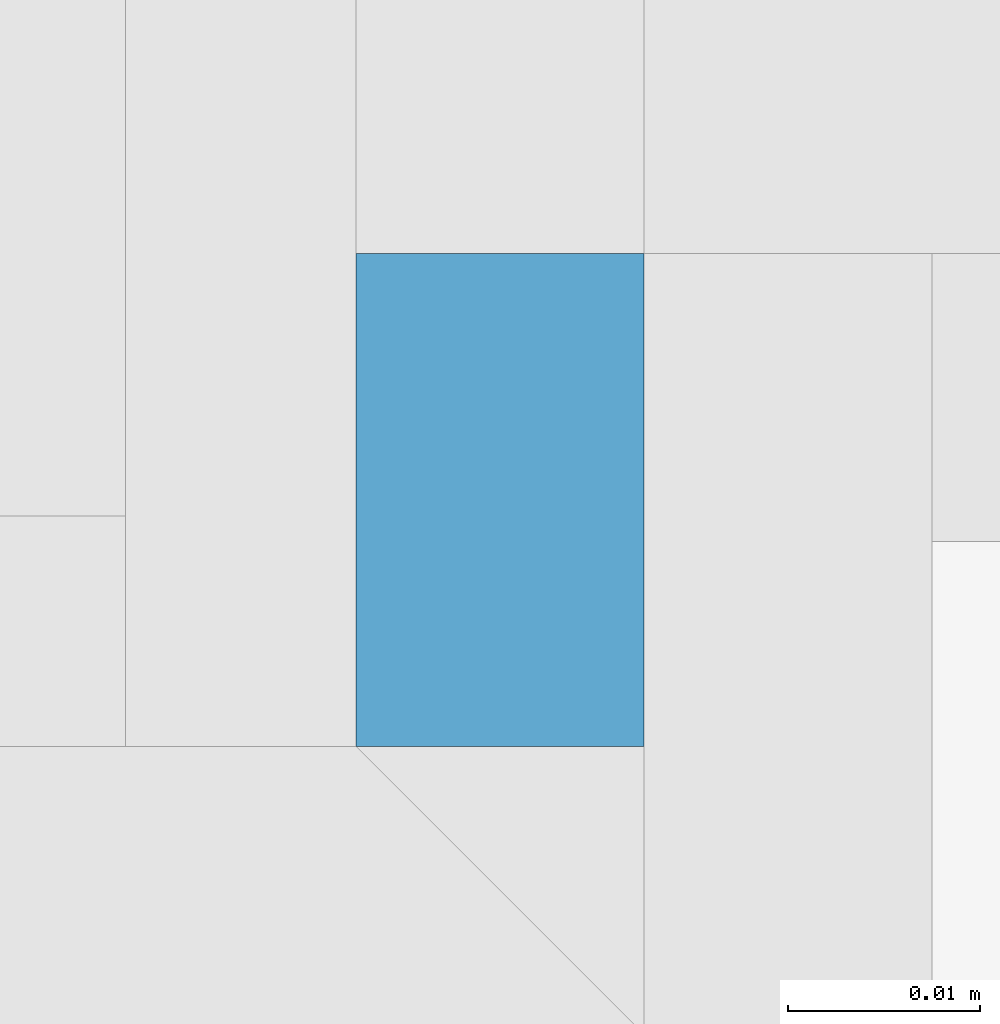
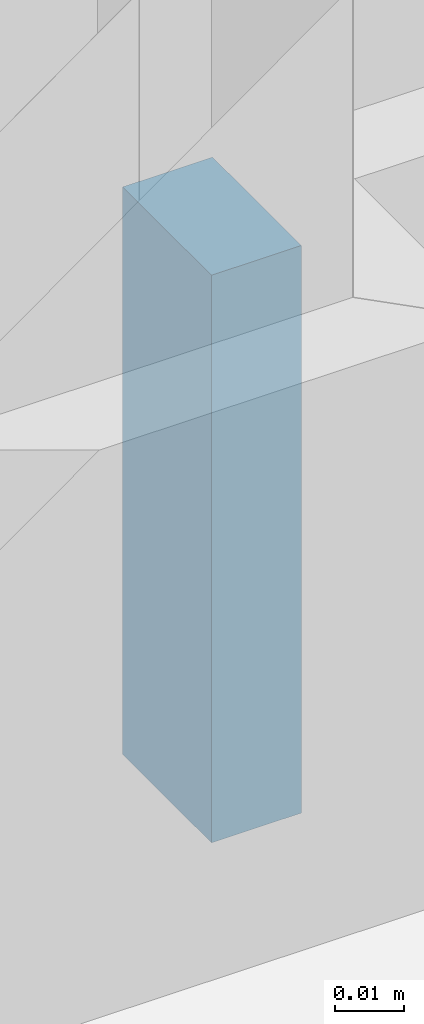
# One storey, part 10 of 65: 1 wall.
"""IFC2X3 building model written with IfcOpenShell, lengths in metres."""

from ifc_helpers import new_model, entity, si_unit, converted_unit, derived_unit, money_unit, direction, frame, frame_2d, origin_with_axes, place, context, subcontext, project, spatial, rectangle, extrude, material, layer, layer_set, layer_usage, type_object, element, save


model = new_model("IFC2X3")

# Units and contexts
model_context = context("Model", 3, precision=1e-05, world=origin_with_axes(), true_north=direction((0.0, 1.0)))
body_context = subcontext(model_context, "Body", "Model", "MODEL_VIEW", scale=1.0)
ifc_project = project(units=[si_unit("LENGTHUNIT", "METRE"), si_unit("AREAUNIT", "SQUARE_METRE"), si_unit("VOLUMEUNIT", "CUBIC_METRE"), si_unit("ABSORBEDDOSEUNIT", "GRAY"), si_unit("AMOUNTOFSUBSTANCEUNIT", "MOLE"), si_unit("DOSEEQUIVALENTUNIT", "SIEVERT"), si_unit("ELECTRICCAPACITANCEUNIT", "FARAD"), si_unit("ELECTRICCHARGEUNIT", "COULOMB"), si_unit("ELECTRICCONDUCTANCEUNIT", "SIEMENS"), si_unit("ELECTRICCURRENTUNIT", "AMPERE"), si_unit("ELECTRICRESISTANCEUNIT", "OHM"), si_unit("ELECTRICVOLTAGEUNIT", "VOLT"), si_unit("ENERGYUNIT", "JOULE"), si_unit("FORCEUNIT", "NEWTON"), si_unit("FREQUENCYUNIT", "HERTZ"), si_unit("ILLUMINANCEUNIT", "LUX"), si_unit("INDUCTANCEUNIT", "HENRY"), si_unit("LUMINOUSFLUXUNIT", "LUMEN"), si_unit("LUMINOUSINTENSITYUNIT", "CANDELA"), si_unit("MAGNETICFLUXDENSITYUNIT", "TESLA"), si_unit("MAGNETICFLUXUNIT", "WEBER"), si_unit("MASSUNIT", "GRAM"), converted_unit("PLANEANGLEUNIT", "degree", entity("IfcReal", 0.0174532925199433), si_unit("PLANEANGLEUNIT", "RADIAN"), dimensions=[0, 0, 0, 0, 0, 0, 0]), si_unit("POWERUNIT", "WATT"), si_unit("PRESSUREUNIT", "PASCAL"), si_unit("RADIOACTIVITYUNIT", "BECQUEREL"), si_unit("SOLIDANGLEUNIT", "STERADIAN"), si_unit("THERMODYNAMICTEMPERATUREUNIT", "KELVIN"), si_unit("TIMEUNIT", "SECOND"), derived_unit("ACCELERATIONUNIT", [(si_unit("LENGTHUNIT", "METRE"), 1), (si_unit("TIMEUNIT", "SECOND"), -2)]), derived_unit("ANGULARVELOCITYUNIT", [(converted_unit("PLANEANGLEUNIT", "degree", entity("IfcReal", 0.0174532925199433), si_unit("PLANEANGLEUNIT", "RADIAN"), dimensions=[0, 0, 0, 0, 0, 0, 0]), 1), (si_unit("TIMEUNIT", "SECOND"), -1)]), derived_unit("CURVATUREUNIT", [(converted_unit("PLANEANGLEUNIT", "degree", entity("IfcReal", 0.0174532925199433), si_unit("PLANEANGLEUNIT", "RADIAN"), dimensions=[0, 0, 0, 0, 0, 0, 0]), 1), (si_unit("LENGTHUNIT", "METRE"), -1)]), derived_unit("DYNAMICVISCOSITYUNIT", [(si_unit("PRESSUREUNIT", "PASCAL"), 1), (si_unit("TIMEUNIT", "SECOND"), 1)]), derived_unit("HEATFLUXDENSITYUNIT", [(si_unit("POWERUNIT", "WATT"), 1), (si_unit("LENGTHUNIT", "METRE"), -2)]), derived_unit("HEATINGVALUEUNIT", [(si_unit("ENERGYUNIT", "JOULE"), 1), (si_unit("MASSUNIT", "GRAM"), -1)]), derived_unit("INTEGERCOUNTRATEUNIT", [(si_unit("TIMEUNIT", "SECOND"), -1)]), derived_unit("IONCONCENTRATIONUNIT", [(si_unit("MASSUNIT", "GRAM"), 1), (si_unit("VOLUMEUNIT", "CUBIC_METRE"), -1)]), derived_unit("ISOTHERMALMOISTURECAPACITYUNIT", [(si_unit("VOLUMEUNIT", "CUBIC_METRE"), 1), (si_unit("MASSUNIT", "GRAM"), -1)]), derived_unit("KINEMATICVISCOSITYUNIT", [(si_unit("AREAUNIT", "SQUARE_METRE"), 1), (si_unit("TIMEUNIT", "SECOND"), -1)]), derived_unit("LINEARFORCEUNIT", [(si_unit("FORCEUNIT", "NEWTON"), 1), (si_unit("LENGTHUNIT", "METRE"), -1)]), derived_unit("LINEARMOMENTUNIT", [(si_unit("FORCEUNIT", "NEWTON"), 1), (si_unit("LENGTHUNIT", "METRE"), -1)]), derived_unit("LINEARSTIFFNESSUNIT", [(si_unit("FORCEUNIT", "NEWTON"), 1), (si_unit("LENGTHUNIT", "METRE"), -1)]), derived_unit("LINEARVELOCITYUNIT", [(si_unit("LENGTHUNIT", "METRE"), 1), (si_unit("TIMEUNIT", "SECOND"), -1)]), derived_unit("LUMINOUSINTENSITYDISTRIBUTIONUNIT", [(si_unit("LUMINOUSINTENSITYUNIT", "CANDELA"), 1), (si_unit("LUMINOUSFLUXUNIT", "LUMEN"), -1)]), derived_unit("MASSDENSITYUNIT", [(si_unit("MASSUNIT", "GRAM"), 1), (si_unit("VOLUMEUNIT", "CUBIC_METRE"), -1)]), derived_unit("MASSFLOWRATEUNIT", [(si_unit("MASSUNIT", "GRAM"), 1), (si_unit("TIMEUNIT", "SECOND"), -1)]), derived_unit("MASSPERLENGTHUNIT", [(si_unit("MASSUNIT", "GRAM"), 1), (si_unit("LENGTHUNIT", "METRE"), -1)]), derived_unit("MODULUSOFELASTICITYUNIT", [(si_unit("FORCEUNIT", "NEWTON"), 1), (si_unit("AREAUNIT", "SQUARE_METRE"), -1)]), derived_unit("MODULUSOFLINEARSUBGRADEREACTIONUNIT", [(si_unit("FORCEUNIT", "NEWTON"), 1), (si_unit("LENGTHUNIT", "METRE"), -2)]), derived_unit("MODULUSOFROTATIONALSUBGRADEREACTIONUNIT", [(si_unit("FORCEUNIT", "NEWTON"), 1), (si_unit("LENGTHUNIT", "METRE"), 1)]), derived_unit("MODULUSOFSUBGRADEREACTIONUNIT", [(si_unit("FORCEUNIT", "NEWTON"), 1), (si_unit("VOLUMEUNIT", "CUBIC_METRE"), -1)]), derived_unit("MOISTUREDIFFUSIVITYUNIT", [(si_unit("VOLUMEUNIT", "CUBIC_METRE"), 1), (si_unit("TIMEUNIT", "SECOND"), -1)]), derived_unit("MOLECULARWEIGHTUNIT", [(si_unit("MASSUNIT", "GRAM"), 1), (si_unit("AMOUNTOFSUBSTANCEUNIT", "MOLE"), -1)]), derived_unit("PLANARFORCEUNIT", [(si_unit("FORCEUNIT", "NEWTON"), 1), (si_unit("LENGTHUNIT", "METRE"), -2)]), derived_unit("ROTATIONALFREQUENCYUNIT", [(si_unit("TIMEUNIT", "SECOND"), -1)]), derived_unit("ROTATIONALMASSUNIT", [(si_unit("MASSUNIT", "GRAM"), 1), (si_unit("LENGTHUNIT", "METRE"), 2)]), derived_unit("ROTATIONALSTIFFNESSUNIT", [(si_unit("FORCEUNIT", "NEWTON"), 1), (si_unit("LENGTHUNIT", "METRE"), 1), (converted_unit("PLANEANGLEUNIT", "degree", entity("IfcReal", 0.0174532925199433), si_unit("PLANEANGLEUNIT", "RADIAN"), dimensions=[0, 0, 0, 0, 0, 0, 0]), -1)]), derived_unit("SECTIONAREAINTEGRALUNIT", [(si_unit("LENGTHUNIT", "METRE"), 5)]), derived_unit("SECTIONMODULUSUNIT", [(si_unit("LENGTHUNIT", "METRE"), 3)]), derived_unit("SHEARMODULUSUNIT", [(si_unit("FORCEUNIT", "NEWTON"), 1), (si_unit("AREAUNIT", "SQUARE_METRE"), -1)]), derived_unit("SOUNDPOWERUNIT", [(si_unit("ENERGYUNIT", "JOULE"), 1), (si_unit("TIMEUNIT", "SECOND"), -1)]), derived_unit("SPECIFICHEATCAPACITYUNIT", [(si_unit("FORCEUNIT", "NEWTON"), 1), (si_unit("MASSUNIT", "GRAM"), -1), (si_unit("THERMODYNAMICTEMPERATUREUNIT", "KELVIN"), -1)]), derived_unit("TEMPERATUREGRADIENTUNIT", [(si_unit("THERMODYNAMICTEMPERATUREUNIT", "KELVIN"), 1), (si_unit("LENGTHUNIT", "METRE"), -1)]), derived_unit("THERMALADMITTANCEUNIT", [(si_unit("POWERUNIT", "WATT"), 1), (si_unit("AREAUNIT", "SQUARE_METRE"), -1), (si_unit("THERMODYNAMICTEMPERATUREUNIT", "KELVIN"), -1)]), derived_unit("THERMALCONDUCTANCEUNIT", [(si_unit("POWERUNIT", "WATT"), 1), (si_unit("LENGTHUNIT", "METRE"), -1), (si_unit("THERMODYNAMICTEMPERATUREUNIT", "KELVIN"), -1)]), derived_unit("THERMALEXPANSIONCOEFFICIENTUNIT", [(si_unit("THERMODYNAMICTEMPERATUREUNIT", "KELVIN"), -1)]), derived_unit("THERMALRESISTANCEUNIT", [(si_unit("AREAUNIT", "SQUARE_METRE"), 1), (si_unit("POWERUNIT", "WATT"), -1)]), derived_unit("THERMALTRANSMITTANCEUNIT", [(si_unit("POWERUNIT", "WATT"), 1), (si_unit("AREAUNIT", "SQUARE_METRE"), -1), (si_unit("THERMODYNAMICTEMPERATUREUNIT", "KELVIN"), -1)]), derived_unit("TORQUEUNIT", [(si_unit("FORCEUNIT", "NEWTON"), 1), (si_unit("LENGTHUNIT", "METRE"), 1)]), derived_unit("VAPORPERMEABILITYUNIT", [(si_unit("MASSUNIT", "GRAM"), 1), (si_unit("TIMEUNIT", "SECOND"), -1)]), derived_unit("VOLUMETRICFLOWRATEUNIT", [(si_unit("VOLUMEUNIT", "CUBIC_METRE"), 1), (si_unit("TIMEUNIT", "SECOND"), -1)]), derived_unit("WARPINGCONSTANTUNIT", [(si_unit("LENGTHUNIT", "METRE"), 6)]), derived_unit("WARPINGMOMENTUNIT", [(si_unit("FORCEUNIT", "NEWTON"), 1), (si_unit("LENGTHUNIT", "METRE"), 2)]), money_unit("GBP")], contexts=[model_context])

# Site, building, storey
site_placement = place(None, origin_with_axes())
site = spatial("IfcSite", under=ifc_project, at=site_placement, Name="Site", CompositionType="ELEMENT")
building_placement = place(site_placement, origin_with_axes())
building = spatial("IfcBuilding", under=site, at=building_placement, Name="Building01", CompositionType="ELEMENT")
storey_placement = place(building_placement, frame((0.0, 0.0, 8.64), z_axis=(0.0, 0.0, 1.0), x_axis=(1.0, 0.0, 0.0)))
storey = spatial("IfcBuildingStorey", under=building, at=storey_placement, Name="2F", CompositionType="ELEMENT", Elevation=8.64)

# Wall
ifc_material = material(Name="A_BSUK_Walls_Timber")
ifc_layer = layer(ifc_material, 0.015, ventilated=False)
ifc_layer_set = layer_set([ifc_layer])
ifc_layer_usage = layer_usage(ifc_layer_set, "AXIS2", "POSITIVE", 0.0)
wall_type = type_object("IfcWallType", Name="default", PredefinedType="NOTDEFINED")
wall_placement = place(storey_placement, frame((0.318, 8.21067, 0.015), z_axis=(0.0, 0.0, 1.0), x_axis=(0.0, -1.0, 0.0)))
element("IfcWallStandardCase", 1, at=wall_placement, inside=storey, type_object=wall_type, material=ifc_layer_usage, Name="default", ObjectType="default", context=body_context, shape_type="SweptSolid", body=[
    extrude(rectangle(XDim=0.02567, YDim=0.015, at=frame_2d((0.012835, 0.0075), x_axis=(1.0, 0.0))), origin_with_axes(), (0.0, 0.0, 1.0), 0.1),
])

save(model, "model.ifc")
